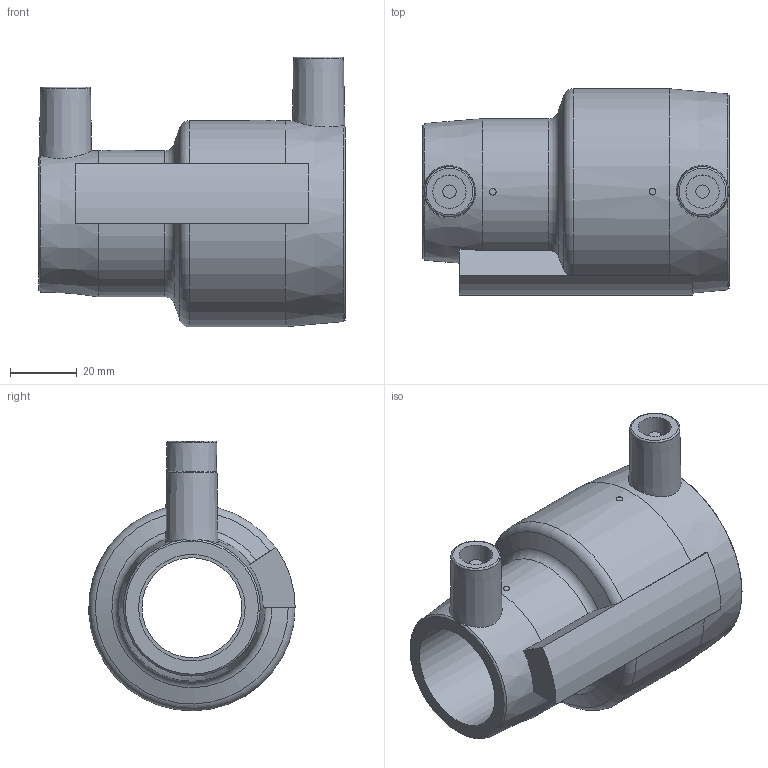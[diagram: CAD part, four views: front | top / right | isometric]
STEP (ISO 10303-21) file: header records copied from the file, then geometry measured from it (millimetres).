
FILE_DESCRIPTION(/* description */ ('Unknown'),/* implementation_level */ '2;1');
FILE_NAME(/* name */ 'REP050032C',/* time_stamp */ '2021-05-24T17:04:01+02:00',/* author */ ('Unknown'),/* organization */ ('Unknown'),/* preprocessor_version */ 'ST-DEVELOPER v16.7',/* originating_system */ 'Solid Edge',/* authorisation */ 'Unknown');
FILE_SCHEMA (('AUTOMOTIVE_DESIGN {1 0 10303 214 3 1 1}'));
Length unit declared in the file: millimetre
Products named in the file (1): REP050032C
Bounding box: 92 x 62 x 80.99 mm (x, y, z)
Volume: 90947.5 mm3; surface area: 34743.9 mm2
Topology: 1 solids, 1 shells, 39 faces, 86 edges, 56 vertices
Faces by surface type: plane 15, cylinder 12, cone 8, torus 4
Full cylindrical faces by diameter (mm): 2 x2, 4 x2, 10 x2, 30 x1, 32 x1, 50 x1
Entity records: 1008 total; most frequent: CARTESIAN_POINT 222, DIRECTION 165, ORIENTED_EDGE 120, AXIS2_PLACEMENT_3D 76, EDGE_LOOP 66, FACE_BOUND 66, EDGE_CURVE 60, VERTEX_POINT 48
